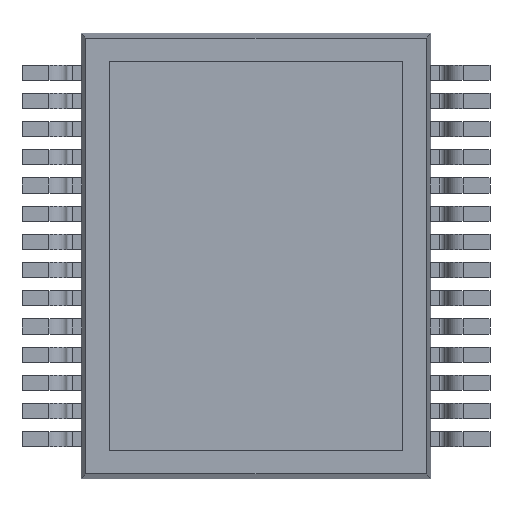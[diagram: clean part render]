
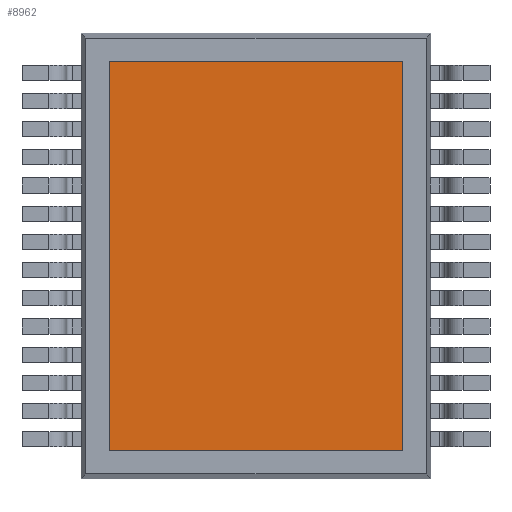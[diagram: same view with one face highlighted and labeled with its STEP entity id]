
A CAD part, front view. The second image highlights one B-rep face of the part: STEP entity #8962.
In plain terms, the highlighted planar face has unit normal (0, -1, 0).
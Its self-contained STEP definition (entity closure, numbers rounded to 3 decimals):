
#52 = VECTOR ( 'NONE', #8765, 1000. ) ;
#55 = VECTOR ( 'NONE', #8759, 1000. ) ;
#56 = LINE ( 'NONE', #8762, #52 ) ;
#68 = VECTOR ( 'NONE', #8753, 1000. ) ;
#72 = LINE ( 'NONE', #8750, #55 ) ;
#99 = LINE ( 'NONE', #8748, #68 ) ;
#100 = VECTOR ( 'NONE', #8747, 1000. ) ;
#140 = LINE ( 'NONE', #8738, #100 ) ;
#5772 = CARTESIAN_POINT ( 'NONE',  ( 2.6, 0., 3.45 ) ) ;
#5774 = CARTESIAN_POINT ( 'NONE',  ( 2.6, 0., -3.45 ) ) ;
#5777 = CARTESIAN_POINT ( 'NONE',  ( -2.6, 0., 3.45 ) ) ;
#5779 = CARTESIAN_POINT ( 'NONE',  ( -2.6, 0., -3.45 ) ) ;
#8228 = FACE_OUTER_BOUND ( 'NONE', #14475, .T. ) ;
#8738 = CARTESIAN_POINT ( 'NONE',  ( 2.6, 0., 3.45 ) ) ;
#8747 = DIRECTION ( 'NONE',  ( 0., 0., 1. ) ) ;
#8748 = CARTESIAN_POINT ( 'NONE',  ( -2.6, 0., 3.45 ) ) ;
#8750 = CARTESIAN_POINT ( 'NONE',  ( -2.6, 0., 3.45 ) ) ;
#8753 = DIRECTION ( 'NONE',  ( -1., 0., 0. ) ) ;
#8759 = DIRECTION ( 'NONE',  ( 0., 0., -1. ) ) ;
#8762 = CARTESIAN_POINT ( 'NONE',  ( -2.6, 0., -3.45 ) ) ;
#8765 = DIRECTION ( 'NONE',  ( 1., 0., 0. ) ) ;
#8962 = ADVANCED_FACE ( 'NONE', ( #8228 ), #16433, .F. ) ;
#10321 = VERTEX_POINT ( 'NONE', #5772 ) ;
#10323 = VERTEX_POINT ( 'NONE', #5774 ) ;
#10326 = VERTEX_POINT ( 'NONE', #5777 ) ;
#10328 = VERTEX_POINT ( 'NONE', #5779 ) ;
#10686 = ORIENTED_EDGE ( 'NONE', *, *, #12165, .T. ) ;
#10687 = ORIENTED_EDGE ( 'NONE', *, *, #12164, .T. ) ;
#10688 = ORIENTED_EDGE ( 'NONE', *, *, #12162, .T. ) ;
#10689 = ORIENTED_EDGE ( 'NONE', *, *, #12159, .T. ) ;
#12159 = EDGE_CURVE ( 'NONE', #10323, #10321, #140, .T. ) ;
#12162 = EDGE_CURVE ( 'NONE', #10321, #10326, #99, .T. ) ;
#12164 = EDGE_CURVE ( 'NONE', #10326, #10328, #72, .T. ) ;
#12165 = EDGE_CURVE ( 'NONE', #10328, #10323, #56, .T. ) ;
#12746 = AXIS2_PLACEMENT_3D ( 'NONE', #16452, #16453, #16454 ) ;
#14475 = EDGE_LOOP ( 'NONE', ( #10689, #10688, #10687, #10686 ) ) ;
#16433 = PLANE ( 'NONE',  #12746 ) ;
#16452 = CARTESIAN_POINT ( 'NONE',  ( 0., 0., 0. ) ) ;
#16453 = DIRECTION ( 'NONE',  ( 0., 1., 0. ) ) ;
#16454 = DIRECTION ( 'NONE',  ( 0., 0., 1. ) ) ;
